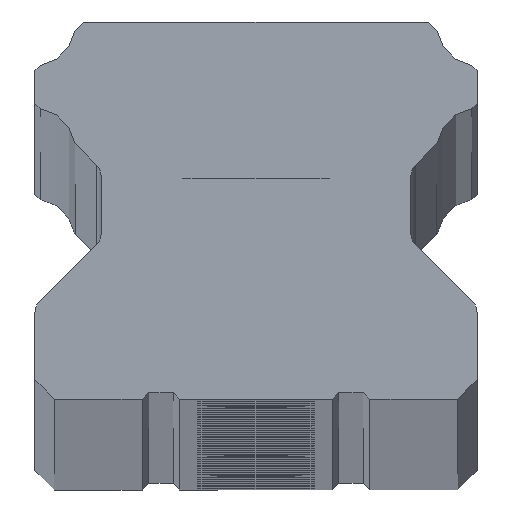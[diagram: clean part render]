
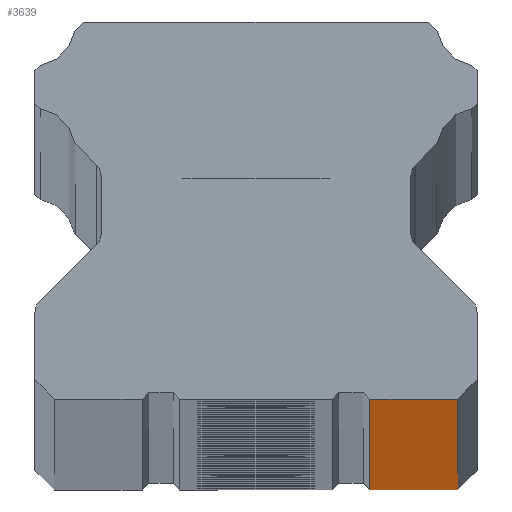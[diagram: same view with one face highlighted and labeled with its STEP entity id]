
A CAD part, top view. The second image highlights one B-rep face of the part: STEP entity #3639.
In plain terms, the highlighted planar face has unit normal (0, -1, 0).
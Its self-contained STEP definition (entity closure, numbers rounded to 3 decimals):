
#89 = CARTESIAN_POINT ( 'NONE',  ( 8.75, -15.237, -4000. ) ) ;
#100 = CARTESIAN_POINT ( 'NONE',  ( 8.75, -15.237, -4000. ) ) ;
#460 = LINE ( 'NONE', #4089, #3393 ) ;
#735 = DIRECTION ( 'NONE',  ( 1., 0., 0. ) ) ;
#991 = EDGE_CURVE ( 'NONE', #8319, #3685, #2125, .T. ) ;
#1509 = EDGE_CURVE ( 'NONE', #8319, #7794, #7043, .T. ) ;
#1831 = FACE_OUTER_BOUND ( 'NONE', #5178, .T. ) ;
#2125 = LINE ( 'NONE', #100, #4582 ) ;
#2845 = DIRECTION ( 'NONE',  ( 0., 0., 1. ) ) ;
#3169 = ORIENTED_EDGE ( 'NONE', *, *, #991, .T. ) ;
#3393 = VECTOR ( 'NONE', #8989, 1000. ) ;
#3436 = VERTEX_POINT ( 'NONE', #4792 ) ;
#3462 = LINE ( 'NONE', #3500, #7720 ) ;
#3500 = CARTESIAN_POINT ( 'NONE',  ( 8.75, -15.237, 0. ) ) ;
#3639 = ADVANCED_FACE ( 'NONE', ( #1831 ), #8139, .T. ) ;
#3685 = VERTEX_POINT ( 'NONE', #7560 ) ;
#4084 = ORIENTED_EDGE ( 'NONE', *, *, #1509, .F. ) ;
#4089 = CARTESIAN_POINT ( 'NONE',  ( 15.5, -15.237, -4000. ) ) ;
#4184 = CARTESIAN_POINT ( 'NONE',  ( 8.75, -15.237, -4000. ) ) ;
#4298 = CARTESIAN_POINT ( 'NONE',  ( 8.75, -15.237, -4000. ) ) ;
#4582 = VECTOR ( 'NONE', #8527, 1000. ) ;
#4792 = CARTESIAN_POINT ( 'NONE',  ( 15.5, -15.237, 0. ) ) ;
#4916 = DIRECTION ( 'NONE',  ( 1., 0., 0. ) ) ;
#5178 = EDGE_LOOP ( 'NONE', ( #5893, #4084, #3169, #5581 ) ) ;
#5581 = ORIENTED_EDGE ( 'NONE', *, *, #6129, .T. ) ;
#5715 = AXIS2_PLACEMENT_3D ( 'NONE', #4184, #6864, #4916 ) ;
#5893 = ORIENTED_EDGE ( 'NONE', *, *, #7028, .F. ) ;
#6129 = EDGE_CURVE ( 'NONE', #3685, #3436, #460, .T. ) ;
#6475 = VECTOR ( 'NONE', #2845, 1000. ) ;
#6864 = DIRECTION ( 'NONE',  ( 0., -1., 0. ) ) ;
#7028 = EDGE_CURVE ( 'NONE', #7794, #3436, #3462, .T. ) ;
#7043 = LINE ( 'NONE', #89, #6475 ) ;
#7514 = CARTESIAN_POINT ( 'NONE',  ( 8.75, -15.237, 0. ) ) ;
#7560 = CARTESIAN_POINT ( 'NONE',  ( 15.5, -15.237, -4000. ) ) ;
#7720 = VECTOR ( 'NONE', #735, 1000. ) ;
#7794 = VERTEX_POINT ( 'NONE', #7514 ) ;
#8139 = PLANE ( 'NONE',  #5715 ) ;
#8319 = VERTEX_POINT ( 'NONE', #4298 ) ;
#8527 = DIRECTION ( 'NONE',  ( 1., 0., 0. ) ) ;
#8989 = DIRECTION ( 'NONE',  ( 0., 0., 1. ) ) ;
